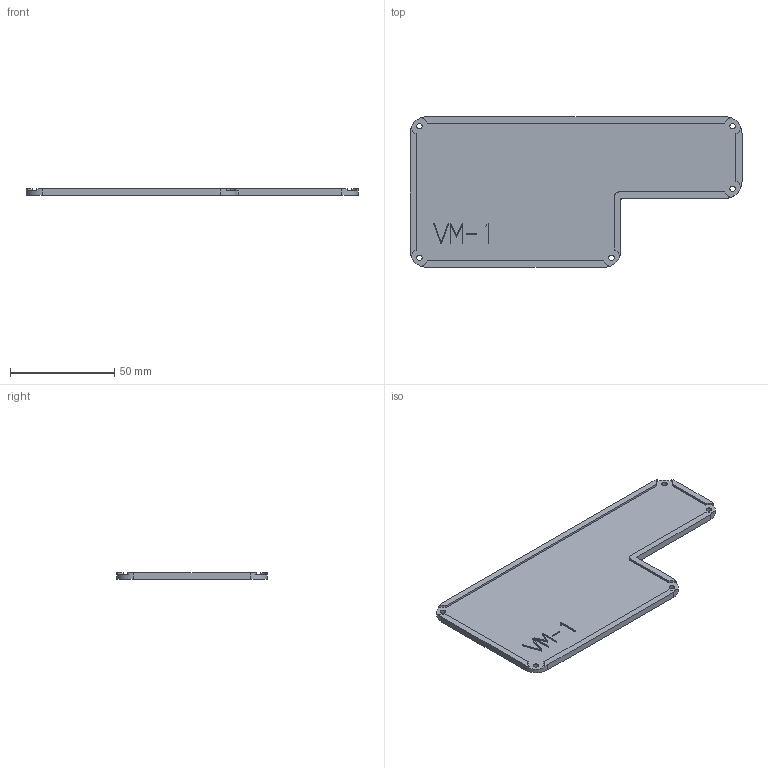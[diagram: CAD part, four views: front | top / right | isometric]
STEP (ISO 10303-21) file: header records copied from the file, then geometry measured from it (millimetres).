
FILE_DESCRIPTION(('HOOPS Exchange Step'),'2;1');
FILE_NAME('/private/var/mobile/Containers/Data/Application/BC5DB38F-8F79-4F4A-9C50-61E1223B387B/tmp/export/temp_export','2025-08-26T09:12:07+02:00',('mobile'),('Shapr3D Limited'),'HOOPS Exchange 2024.8','Shapr3D','Authorized');
FILE_SCHEMA( ('AP242_MANAGED_MODEL_BASED_3D_ENGINEERING_MIM_LF {1 0 10303 442 1 1 4}') );
Length unit declared in the file: millimetre
Products named in the file (1): Top
Bounding box: 159 x 72 x 3 mm (x, y, z)
Volume: 20072.7 mm3; surface area: 20756.1 mm2
Topology: 1 solids, 1 shells, 76 faces, 210 edges, 140 vertices
Faces by surface type: plane 54, cylinder 22
Full cylindrical faces by diameter (mm): 2.6 x5
Entity records: 2484 total; most frequent: CARTESIAN_POINT 428, DIRECTION 420, ORIENTED_EDGE 420, EDGE_CURVE 210, VECTOR 156, LINE 156, VERTEX_POINT 140, AXIS2_PLACEMENT_3D 132
